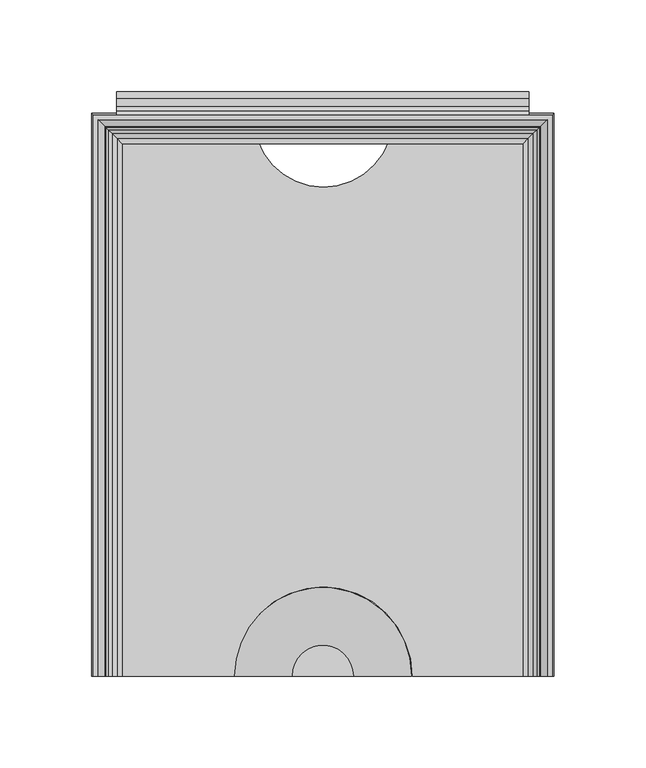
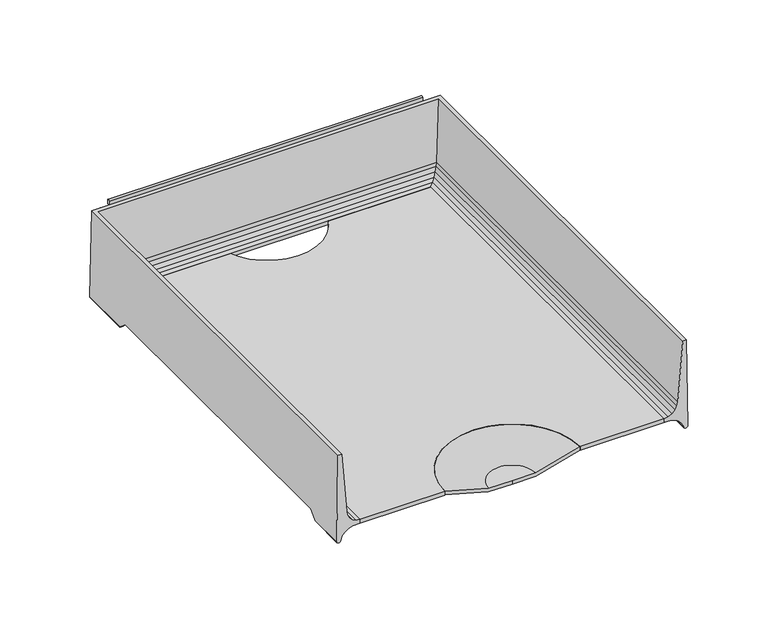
"""IFC4 building model written with IfcOpenShell, lengths in millimetres: furniture geometry."""

from ifc_helpers import new_model, si_unit, point, frame, frame_2d, origin, place, context, project, spatial, polyline, circle_curve, ellipse_curve, trimmed, segment, composite_curve, outline, extrude, source, transform, mapped, element, save
from ifc_brep_helpers import plane_surface, cylinder_surface, revolved_surface, advanced_brep


def furniture_f058e72c(model_context):
    return source(origin(), model_context, "Body", "SolidModel", [
        advanced_brep(
        [(126.0820502, -154.0206082, 874.4007489), (125.1325529, -154.0206082, 939.8001914), (122.4547921, -154.0206082, 939.8001914), (118.8379747, -154.0206082, 895.0131003), (118.4123648, -154.0206082, 892.2796052), (117.0774354, -154.0206082, 889.5785664), (114.9656457, -154.0206082, 887.4296015), (112.28832, -154.0206082, 886.0477261), (109.3133381, -154.0206082, 885.5712052), (109.3133381, -154.0206082, 882.7490971), (114.5666739, -154.0206082, 882.5560987), (117.605351, -154.0206082, 881.4997218), (120.2416, -154.0206082, 879.6558822), (122.2762142, -154.0206082, 877.1639079), (123.1625518, -154.0206082, 874.1206655), (126.0820502, -127.6379698, 874.4007489), (126.0026181, -121.5231874, 879.871872), (126.0026181, 109.0611937, 879.871872), (126.0820502, 115.1759816, 874.4007489), (126.0820502, 153.036442, 874.4007489), (125.1325529, 152.0869447, 939.8001914), (-125.1325529, 152.0869447, 939.8001914), (-125.1325529, -154.0206082, 939.8001914), (-122.4547921, -154.0206082, 939.8001914), (-122.4547921, 149.4091839, 939.8001914), (122.4547921, 149.4091839, 939.8001914), (118.8379747, 145.7923665, 895.0131003), (118.4123648, 145.3667566, 892.2796052), (117.0774354, 144.0318272, 889.5785664), (114.9656457, 141.9200375, 887.4296015), (112.28832, 139.2427118, 886.0477261), (109.3133381, 136.2677299, 885.5712052), (109.3133381, 136.2677299, 882.7490971), (114.5666739, 141.5210656, 882.5560987), (117.605351, 144.5597428, 881.4997218), (120.2416, 147.1959918, 879.6558822), (120.2416, 109.3025941, 879.6558822), (119.9327864, 109.0611937, 879.871872), (119.9327864, -121.5231874, 879.871872), (120.2416, -121.7645876, 879.6558822), (122.2762142, -124.5497344, 877.1639079), (122.2762142, 149.230606, 877.1639079), (122.2762142, 112.0877435, 877.1639079), (123.1625518, -127.9510041, 874.1206655), (123.1625518, 150.1169436, 874.1206655), (123.1625518, 115.4890162, 874.1206655), (-126.0820502, 153.036442, 874.4007489), (-118.8379747, 145.7923665, 895.0131003), (-118.4123648, 145.3667566, 892.2796052), (-117.0774354, 144.0318272, 889.5785664), (-114.9656457, 141.9200375, 887.4296015), (-112.28832, 139.2427118, 886.0477261), (-109.3133381, 136.2677299, 885.5712052), (-109.3133381, 136.2677299, 882.7490971), (-114.5666739, 141.5210656, 882.5560987), (-117.605351, 144.5597428, 881.4997218), (-120.2416, 147.1959918, 879.6558822), (-122.2762142, 149.230606, 877.1639079), (-123.1625518, 150.1169436, 874.1206655), (-126.0820502, -154.0206082, 874.4007489), (-123.1625518, -154.0206082, 874.1206655), (-122.2762142, -154.0206082, 877.1639079), (-120.2416, -154.0206082, 879.6558822), (-117.605351, -154.0206082, 881.4997218), (-114.5666739, -154.0206082, 882.5560987), (-109.3133381, -154.0206082, 882.7490971), (-109.3133381, -154.0206082, 885.5712052), (-112.28832, -154.0206082, 886.0477261), (-114.9656457, -154.0206082, 887.4296015), (-117.0774354, -154.0206082, 889.5785664), (-118.4123648, -154.0206082, 892.2796052), (-118.8379747, -154.0206082, 895.0131003), (-126.0820502, 115.1759816, 874.4007489), (-126.0026181, 109.0611937, 879.871872), (-126.0026181, -121.5231874, 879.871872), (-126.0820502, -127.6379698, 874.4007489), (-120.2416, -121.7645876, 879.6558822), (-119.9327864, -121.5231874, 879.871872), (-119.9327864, 109.0611937, 879.871872), (-120.2416, 109.3025941, 879.6558822), (-122.2762142, 112.0877435, 877.1639079), (-122.2762142, -124.5497344, 877.1639079), (-123.1625518, 115.4890162, 874.1206655), (-123.1625518, -127.9510041, 874.1206655)],
        [
            (0, 1),
            (1, 2),
            (2, 3),
            (3, 4),
            (4, 5),
            (5, 6),
            (6, 7),
            (7, 8),
            (8, 9),
            (9, 10),
            (10, 11),
            (11, 12),
            (12, 13),
            (13, 14),
            (14, 0, circle_curve(frame((124.5859452, -154.0206082, 874.6396685), z_axis=(0.0, -1.0, 0.0), x_axis=(-1.0, 0.0, 0.0)), 1.515062)),
            (0, 15),
            (15, 16),
            (16, 17),
            (17, 18),
            (18, 19),
            (19, 20),
            (20, 1),
            (20, 21),
            (21, 22),
            (22, 23),
            (23, 24),
            (24, 25),
            (25, 2),
            (25, 26),
            (26, 3),
            (26, 27),
            (27, 4),
            (27, 28),
            (28, 5),
            (28, 29),
            (29, 6),
            (29, 30),
            (30, 7),
            (30, 31),
            (31, 8),
            (31, 32),
            (32, 9),
            (32, 33),
            (33, 10),
            (33, 34),
            (34, 11),
            (34, 35),
            (35, 36),
            (36, 37),
            (37, 38),
            (38, 39),
            (39, 12),
            (39, 40),
            (40, 13),
            (35, 41),
            (41, 42),
            (42, 36),
            (40, 43),
            (43, 14),
            (41, 44),
            (44, 45),
            (45, 42),
            (43, 15, ellipse_curve(frame((124.5859452, -127.3709422, 874.6396685), z_axis=(0.0, -0.6667949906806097, 0.7452411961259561), x_axis=(0.0, -0.7452411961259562, -0.6667949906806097)), 2.2721556, 1.515062)),
            (44, 19, ellipse_curve(frame((124.5859452, 151.540337, 874.6396685), z_axis=(0.7071067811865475, -0.7071067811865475, 0.0), x_axis=(-0.7071067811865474, -0.7071067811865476, 0.0)), 2.1426212, 1.515062)),
            (18, 45, ellipse_curve(frame((124.5859452, 114.9089538, 874.6396685), z_axis=(0.0, 0.6667946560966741, 0.7452414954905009), x_axis=(0.0, -0.7452414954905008, 0.6667946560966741)), 2.2721567, 1.515062)),
            (19, 46),
            (46, 21),
            (24, 47),
            (47, 26),
            (47, 48),
            (48, 27),
            (48, 49),
            (49, 28),
            (49, 50),
            (50, 29),
            (50, 51),
            (51, 30),
            (51, 52),
            (52, 31),
            (52, 53),
            (53, 32),
            (53, 54),
            (54, 33),
            (54, 55),
            (55, 34),
            (55, 56),
            (56, 35),
            (56, 57),
            (57, 41),
            (57, 58),
            (58, 44),
            (58, 46, ellipse_curve(frame((-124.5859452, 151.540337, 874.6396685), z_axis=(0.7071067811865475, 0.7071067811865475, 0.0), x_axis=(0.7071067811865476, -0.7071067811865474, 0.0)), 2.1426212, 1.515062)),
            (22, 59),
            (59, 60, circle_curve(frame((-124.5859452, -154.0206082, 874.6396685), z_axis=(0.0, -1.0, 0.0), x_axis=(1.0, 0.0, 0.0)), 1.515062)),
            (60, 61),
            (61, 62),
            (62, 63),
            (63, 64),
            (64, 65),
            (65, 66),
            (66, 67),
            (67, 68),
            (68, 69),
            (69, 70),
            (70, 71),
            (71, 23),
            (46, 72),
            (72, 73),
            (73, 74),
            (74, 75),
            (75, 59),
            (71, 47),
            (70, 48),
            (69, 49),
            (68, 50),
            (67, 51),
            (66, 52),
            (65, 53),
            (64, 54),
            (63, 55),
            (62, 76),
            (76, 77),
            (77, 78),
            (78, 79),
            (79, 56),
            (79, 80),
            (80, 57),
            (61, 81),
            (81, 76),
            (80, 82),
            (82, 58),
            (60, 83),
            (83, 81),
            (82, 72, ellipse_curve(frame((-124.5859452, 114.9089538, 874.6396685), z_axis=(0.0, 0.6667946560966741, 0.7452414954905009), x_axis=(0.0, 0.7452414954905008, -0.6667946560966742)), 2.2721567, 1.515062)),
            (75, 83, ellipse_curve(frame((-124.5859452, -127.3709422, 874.6396685), z_axis=(0.0, -0.6667949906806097, 0.7452411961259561), x_axis=(0.0, 0.745241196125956, 0.6667949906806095)), 2.2721556, 1.515062)),
            (38, 16),
            (74, 77),
            (37, 17),
            (73, 78),
        ],
        [
            plane_surface(frame((127.0, -154.0206082, 873.125), z_axis=(0.0, -1.0, 0.0), x_axis=(0.0, 0.0, 1.0))),
            plane_surface(frame((126.0820502, -154.0206082, 874.4007489), z_axis=(0.9998946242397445, 0.0, 0.014516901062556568), x_axis=(0.0, 1.0, 0.0))),
            plane_surface(frame((125.1325529, -154.0206082, 939.8001914), z_axis=(0.0, 0.0, 1.0), x_axis=(0.0, 1.0, 0.0))),
            plane_surface(frame((122.4547921, -154.0206082, 939.8001914), z_axis=(-0.9967551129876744, 0.0, 0.08049375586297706), x_axis=(0.0, 1.0, 0.0))),
            plane_surface(frame((118.8379747, -154.0206082, 895.0131003), z_axis=(-0.9880945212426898, 0.0, 0.15384803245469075), x_axis=(0.0, 1.0, 0.0))),
            plane_surface(frame((118.4123648, -154.0206082, 892.2796052), z_axis=(-0.8964873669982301, 0.0, 0.44306929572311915), x_axis=(0.0, 1.0, 0.0))),
            plane_surface(frame((117.0774354, -154.0206082, 889.5785664), z_axis=(-0.7132491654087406, 0.0, 0.7009105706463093), x_axis=(0.0, 1.0, 0.0))),
            plane_surface(frame((114.9656457, -154.0206082, 887.4296015), z_axis=(-0.45865074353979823, 0.0, 0.8886166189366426), x_axis=(0.0, 1.0, 0.0))),
            plane_surface(frame((112.28832, -154.0206082, 886.0477261), z_axis=(-0.15816001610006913, 0.0, 0.987413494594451), x_axis=(0.0, 1.0, 0.0))),
            plane_surface(frame((109.3133381, -154.0206082, 885.5712052), z_axis=(-1.0, 0.0, 0.0), x_axis=(0.0, 1.0, 0.0))),
            plane_surface(frame((109.3133381, -154.0206082, 882.7490971), z_axis=(-0.036713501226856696, 0.0, -0.9993258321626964), x_axis=(0.0, 1.0, 0.0))),
            plane_surface(frame((114.5666739, -154.0206082, 882.5560987), z_axis=(-0.3283669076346, 0.0, -0.9445502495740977), x_axis=(0.0, 1.0, 0.0))),
            plane_surface(frame((117.605351, -154.0206082, 881.4997218), z_axis=(-0.5731421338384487, 0.0, -0.819455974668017), x_axis=(0.0, 1.0, 0.0))),
            plane_surface(frame((120.2416, -154.0206082, 879.6558822), z_axis=(-0.77460799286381, 0.0, -0.6324416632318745), x_axis=(0.0, 1.0, 0.0))),
            plane_surface(frame((122.2762142, -154.0206082, 877.1639079), z_axis=(-0.9601080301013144, 0.0, -0.2796293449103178), x_axis=(0.0, 1.0, 0.0))),
            cylinder_surface(frame((124.5859452, -154.0206082, 874.6396685), z_axis=(0.0, -1.0, 0.0), x_axis=(-1.0, 0.0, 0.0)), 1.515062),
            plane_surface(frame((126.0820502, 153.036442, 874.4007489), z_axis=(0.0, 0.9998946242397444, 0.014516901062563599), x_axis=(-1.0, 0.0, 0.0))),
            plane_surface(frame((122.4547921, 149.4091839, 939.8001914), z_axis=(0.0, -0.9967551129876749, 0.08049375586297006), x_axis=(-1.0, 0.0, 0.0))),
            plane_surface(frame((118.8379747, 145.7923665, 895.0131003), z_axis=(0.0, -0.9880945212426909, 0.15384803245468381), x_axis=(-1.0, 0.0, 0.0))),
            plane_surface(frame((118.4123648, 145.3667566, 892.2796052), z_axis=(0.0, -0.8964873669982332, 0.4430692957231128), x_axis=(-1.0, 0.0, 0.0))),
            plane_surface(frame((117.0774354, 144.0318272, 889.5785664), z_axis=(0.0, -0.7132491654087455, 0.7009105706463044), x_axis=(-1.0, 0.0, 0.0))),
            plane_surface(frame((114.9656457, 141.9200375, 887.4296015), z_axis=(0.0, -0.4586507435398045, 0.8886166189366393), x_axis=(-1.0, 0.0, 0.0))),
            plane_surface(frame((112.28832, 139.2427118, 886.0477261), z_axis=(0.0, -0.15816001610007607, 0.9874134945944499), x_axis=(-1.0, 0.0, 0.0))),
            plane_surface(frame((109.3133381, 136.2677299, 885.5712052), z_axis=(0.0, -1.0, 0.0), x_axis=(-1.0, 0.0, 0.0))),
            plane_surface(frame((109.3133381, 136.2677299, 882.7490971), z_axis=(0.0, -0.03671350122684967, -0.9993258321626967), x_axis=(-1.0, 0.0, 0.0))),
            plane_surface(frame((114.5666739, 141.5210656, 882.5560987), z_axis=(0.0, -0.32836690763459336, -0.9445502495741), x_axis=(-1.0, 0.0, 0.0))),
            plane_surface(frame((117.605351, 144.5597428, 881.4997218), z_axis=(0.0, -0.5731421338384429, -0.819455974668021), x_axis=(-1.0, 0.0, 0.0))),
            plane_surface(frame((120.2416, 147.1959918, 879.6558822), z_axis=(0.0, -0.7746079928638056, -0.6324416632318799), x_axis=(-1.0, 0.0, 0.0))),
            plane_surface(frame((122.2762142, 149.230606, 877.1639079), z_axis=(0.0, -0.9601080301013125, -0.27962934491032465), x_axis=(-1.0, 0.0, 0.0))),
            cylinder_surface(frame((127.0, 151.540337, 874.6396685), z_axis=(1.0, 0.0, 0.0), x_axis=(0.0, -1.0, 0.0)), 1.515062),
            plane_surface(frame((-127.0, -154.0206082, 873.125), z_axis=(0.0, -1.0, 0.0), x_axis=(0.0, 0.0, 1.0))),
            plane_surface(frame((-126.0820502, 153.036442, 874.4007489), z_axis=(-0.9998946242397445, 0.0, 0.014516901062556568), x_axis=(0.0, -1.0, 0.0))),
            plane_surface(frame((-122.4547921, 149.4091839, 939.8001914), z_axis=(0.9967551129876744, 0.0, 0.08049375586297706), x_axis=(0.0, -1.0, 0.0))),
            plane_surface(frame((-118.8379747, 145.7923665, 895.0131003), z_axis=(0.9880945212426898, 0.0, 0.15384803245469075), x_axis=(0.0, -1.0, 0.0))),
            plane_surface(frame((-118.4123648, 145.3667566, 892.2796052), z_axis=(0.8964873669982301, 0.0, 0.44306929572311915), x_axis=(0.0, -1.0, 0.0))),
            plane_surface(frame((-117.0774354, 144.0318272, 889.5785664), z_axis=(0.7132491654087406, 0.0, 0.7009105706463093), x_axis=(0.0, -1.0, 0.0))),
            plane_surface(frame((-114.9656457, 141.9200375, 887.4296015), z_axis=(0.45865074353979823, 0.0, 0.8886166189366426), x_axis=(0.0, -1.0, 0.0))),
            plane_surface(frame((-112.28832, 139.2427118, 886.0477261), z_axis=(0.15816001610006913, 0.0, 0.987413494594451), x_axis=(0.0, -1.0, 0.0))),
            plane_surface(frame((-109.3133381, 136.2677299, 885.5712052), z_axis=(1.0, 0.0, 0.0), x_axis=(0.0, -1.0, 0.0))),
            plane_surface(frame((-109.3133381, 136.2677299, 882.7490971), z_axis=(0.036713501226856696, 0.0, -0.9993258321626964), x_axis=(0.0, -1.0, 0.0))),
            plane_surface(frame((-114.5666739, 141.5210656, 882.5560987), z_axis=(0.3283669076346, 0.0, -0.9445502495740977), x_axis=(0.0, -1.0, 0.0))),
            plane_surface(frame((-117.605351, 144.5597428, 881.4997218), z_axis=(0.5731421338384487, 0.0, -0.819455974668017), x_axis=(0.0, -1.0, 0.0))),
            plane_surface(frame((-120.2416, 147.1959918, 879.6558822), z_axis=(0.77460799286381, 0.0, -0.6324416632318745), x_axis=(0.0, -1.0, 0.0))),
            plane_surface(frame((-122.2762142, 149.230606, 877.1639079), z_axis=(0.9601080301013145, 0.0, -0.2796293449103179), x_axis=(0.0, -1.0, 0.0))),
            cylinder_surface(frame((-124.5859452, 153.9543918, 874.6396685), z_axis=(0.0, 1.0, 0.0), x_axis=(1.0, 0.0, 0.0)), 1.515062),
            plane_surface(frame((-127.0, -130.1695728, 872.1356296), z_axis=(0.0, 0.6667949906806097, -0.7452411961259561), x_axis=(1.0, 0.0, 0.0))),
            plane_surface(frame((-127.0, -121.5231874, 879.871872), z_axis=(0.0, 0.0, -1.0), x_axis=(1.0, 0.0, 0.0))),
            plane_surface(frame((-127.0, 109.0611937, 879.871872), z_axis=(0.0, -0.6667946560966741, -0.7452414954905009), x_axis=(1.0, 0.0, 0.0))),
        ],
        [
            (0, [[1, 2, 3, 4, 5, 6, 7, 8, 9, 10, 11, 12, 13, 14, 15]]),
            (1, [[-1, 16, 17, 18, 19, 20, 21, 22]]),
            (2, [[-2, -22, 23, 24, 25, 26, 27, 28]]),
            (3, [[-3, -28, 29, 30]]),
            (4, [[-4, -30, 31, 32]]),
            (5, [[-5, -32, 33, 34]]),
            (6, [[-6, -34, 35, 36]]),
            (7, [[-7, -36, 37, 38]]),
            (8, [[-8, -38, 39, 40]]),
            (9, [[-9, -40, 41, 42]]),
            (10, [[-10, -42, 43, 44]]),
            (11, [[-11, -44, 45, 46]]),
            (12, [[-12, -46, 47, 48, 49, 50, 51, 52]]),
            (13, [[-13, -52, 53, 54]]),
            (13, [[55, 56, 57, -48]]),
            (14, [[-14, -54, 58, 59]]),
            (14, [[60, 61, 62, -56]]),
            (15, [[-15, -59, 63, -16]]),
            (15, [[64, -20, 65, -61]]),
            (16, [[-21, 66, 67, -23]]),
            (17, [[-27, 68, 69, -29]]),
            (18, [[-31, -69, 70, 71]]),
            (19, [[-33, -71, 72, 73]]),
            (20, [[-35, -73, 74, 75]]),
            (21, [[-37, -75, 76, 77]]),
            (22, [[-39, -77, 78, 79]]),
            (23, [[-41, -79, 80, 81]]),
            (24, [[-43, -81, 82, 83]]),
            (25, [[-45, -83, 84, 85]]),
            (26, [[-47, -85, 86, 87]]),
            (27, [[-55, -87, 88, 89]]),
            (28, [[-60, -89, 90, 91]]),
            (29, [[-64, -91, 92, -66]]),
            (30, [[-25, 93, 94, 95, 96, 97, 98, 99, 100, 101, 102, 103, 104, 105, 106]]),
            (31, [[-24, -67, 107, 108, 109, 110, 111, -93]]),
            (32, [[-26, -106, 112, -68]]),
            (33, [[-70, -112, -105, 113]]),
            (34, [[-72, -113, -104, 114]]),
            (35, [[-74, -114, -103, 115]]),
            (36, [[-76, -115, -102, 116]]),
            (37, [[-78, -116, -101, 117]]),
            (38, [[-80, -117, -100, 118]]),
            (39, [[-82, -118, -99, 119]]),
            (40, [[-84, -119, -98, 120]]),
            (41, [[-86, -120, -97, 121, 122, 123, 124, 125]]),
            (42, [[-88, -125, 126, 127]]),
            (42, [[-96, 128, 129, -121]]),
            (43, [[-90, -127, 130, 131]]),
            (43, [[-95, 132, 133, -128]]),
            (44, [[-92, -131, 134, -107]]),
            (44, [[-94, -111, 135, -132]]),
            (45, [[136, -17, -63, -58, -53, -51]]),
            (45, [[137, -122, -129, -133, -135, -110]]),
            (46, [[-136, -50, 138, -18]]),
            (46, [[-137, -109, 139, -123]]),
            (47, [[-138, -49, -57, -62, -65, -19]]),
            (47, [[-139, -108, -134, -130, -126, -124]]),
        ],
    ),
        extrude(outline(composite_curve([segment(polyline([(-109.3647805, 138.2769393), (-35.6610422, 138.2769393)]), True, "CONTINUOUS"), segment(trimmed(circle_curve(frame_2d((0.3369133, 150.6584166)), 38.0677525), [point((-35.6610422, 138.2769393))], [point((36.3348688, 138.2769393))], True, "CARTESIAN"), True, "CONTINUOUS"), segment(polyline([(36.3348688, 138.2769393), (109.6504969, 138.2769393), (109.6504969, -153.9875), (48.9112184, -153.9875)]), True, "CONTINUOUS"), segment(trimmed(circle_curve(frame_2d((0.2842795, -153.9323196)), 48.6269702), [point((48.9112184, -153.9875))], [point((-48.3426595, -153.9875))], True, "CARTESIAN"), True, "CONTINUOUS"), segment(polyline([(-48.3426595, -153.9875), (-109.3647805, -153.9875), (-109.3647805, 138.2769393)]), True, "CONTINUOUS")], self_intersect=False)), frame((0.0, 0.0, 882.7314677), z_axis=(0.0, 0.0, 1.0), x_axis=(1.0, 0.0, 0.0)), (0.0, 0.0, 1.0), 2.8395461),
        extrude(outline(composite_curve([segment(trimmed(circle_curve(frame_2d((162.7186949, 923.9707343)), 1.9049988), [point((164.6236937, 923.9707343))], [point((160.8136962, 923.9707343))], False, "CARTESIAN"), True, "CONTINUOUS"), segment(polyline([(160.8136962, 923.9707343), (160.8136962, 927.3997311), (160.0516969, 928.1617303), (156.4380325, 928.1617303), (152.1427596, 925.8143331), (152.1427596, 934.3191285), (156.4380325, 931.9717312), (160.8136928, 931.9717312)]), True, "CONTINUOUS"), segment(trimmed(circle_curve(frame_2d((160.8136928, 928.1617303)), 3.8100009), [point((160.8136928, 931.9717312))], [point((164.6236937, 928.1617303))], False, "CARTESIAN"), True, "CONTINUOUS"), segment(polyline([(164.6236937, 928.1617303), (164.6236937, 923.9707343)]), True, "CONTINUOUS")], self_intersect=False)), frame((-112.5397809, 0.0, 0.0), z_axis=(1.0, 0.0, 0.0), x_axis=(0.0, 1.0, 0.0)), (0.0, 0.0, 1.0), 225.0795617),
        advanced_brep(
        [(-16.8929028, -153.9875, 876.696875), (-48.4614622, -153.9875, 885.6045432), (-48.4614622, -153.9875, 883.0130018), (-16.9249292, -153.9875, 874.1143704), (0.0, -153.9875, 874.1143704), (0.0, -153.9875, 876.696875), (16.8929028, -153.9875, 876.696875), (16.9249292, -153.9875, 874.1143704), (48.4614622, -153.9875, 883.0130018), (48.4614622, -153.9875, 885.6045432)],
        [
            (0, 1),
            (1, 2),
            (2, 3),
            (3, 4),
            (4, 5),
            (5, 0),
            (6, 5),
            (4, 7),
            (7, 8),
            (8, 9),
            (9, 6),
            (9, 1, circle_curve(frame((0.0, -153.9875, 885.6045432), z_axis=(0.0, 0.0, 1.0), x_axis=(-1.0, 0.0, 0.0)), 48.4614622)),
            (0, 6, circle_curve(frame((0.0, -153.9875, 876.696875), z_axis=(0.0, 0.0, -1.0), x_axis=(-1.0, 0.0, 0.0)), 16.8929028)),
            (8, 2, circle_curve(frame((0.0, -153.9875, 883.0130018), z_axis=(0.0, 0.0, 1.0), x_axis=(-1.0, 0.0, 0.0)), 48.4614622)),
            (7, 3, circle_curve(frame((0.0, -153.9875, 874.1143704), z_axis=(0.0, 0.0, 1.0), x_axis=(-1.0, 0.0, 0.0)), 16.9249292)),
        ],
        [
            plane_surface(frame((0.0, -153.9875, 873.125), z_axis=(0.0, -1.0, 0.0), x_axis=(-1.0, 0.0, 0.0))),
            plane_surface(frame((0.0, -153.9875, 873.125), z_axis=(0.0, -1.0, 0.0), x_axis=(1.0, 0.0, 0.0))),
            revolved_surface(polyline([(-48.4614622, -153.9875, 885.6045432), (-16.8929028, -153.9875, 876.696875)]), (0.0, -153.9875, 873.125), (0.0, 0.0, 1.0)),
            cylinder_surface(frame((0.0, -153.9875, 873.125), z_axis=(0.0, 0.0, 1.0), x_axis=(-1.0, 0.0, 0.0)), 48.4614622),
            revolved_surface(polyline([(-16.9249292, -153.9875, 874.1143704), (-48.4614622, -153.9875, 883.0130018)]), (0.0, -153.9875, 873.125), (0.0, 0.0, 1.0)),
            plane_surface(frame((0.0, -153.9875, 874.1143704), z_axis=(0.0, 0.0, -1.0), x_axis=(-1.0, 0.0, 0.0))),
            plane_surface(frame((0.0, -153.9875, 876.696875), z_axis=(0.0, 0.0, 1.0), x_axis=(-1.0, 0.0, 0.0))),
        ],
        [
            (0, [[1, 2, 3, 4, 5, 6]]),
            (1, [[7, -5, 8, 9, 10, 11]]),
            (2, [[12, -1, 13, -11]]),
            (3, [[14, -2, -12, -10]]),
            (4, [[15, -3, -14, -9]]),
            (5, [[-4, -15, -8]]),
            (6, [[-13, -6, -7]]),
        ],
    ),
        extrude(outline(composite_curve([segment(polyline([(153.9875, 939.8), (152.1427596, 939.8), (152.1427596, 942.6315333)]), True, "CONTINUOUS"), segment(trimmed(circle_curve(frame_2d((153.0651298, 942.3262665)), 0.9715733), [point((152.1427596, 942.6315333))], [point((153.9875, 942.6315333))], False, "CARTESIAN"), True, "CONTINUOUS"), segment(polyline([(153.9875, 942.6315333), (153.9875, 939.8)]), True, "CONTINUOUS")], self_intersect=False)), frame((-112.5397809, 0.0, 0.0), z_axis=(1.0, 0.0, 0.0), x_axis=(0.0, 1.0, 0.0)), (0.0, 0.0, 1.0), 225.0795617),
    ])


if __name__ == "__main__":
    model = new_model("IFC4")
    model_context = context("Model", 3, world=origin())
    ifc_project = project(units=[si_unit("LENGTHUNIT", "METRE", prefix="MILLI")], contexts=[model_context])
    site = spatial("IfcSite", under=ifc_project)
    building = spatial("IfcBuilding", under=site)
    placement = place(None, origin())
    furniture_shape = furniture_f058e72c(model_context)
    element("IfcFurniture", 1, ObjectType="HermanMiller_ThrivePortfolio_Y7216_PaperTray : 3\"H x 12\"D x 10\"W", at=placement, inside=building, context=model_context, shape_type="MappedRepresentation", body=[
        mapped(furniture_shape, transform((0.0, 0.0, 0.0), x_axis=(1.0, 0.0, 0.0), y_axis=(0.0, 1.0, 0.0), z_axis=(0.0, 0.0, 1.0))),
    ])
    save(model, "model.ifc")
